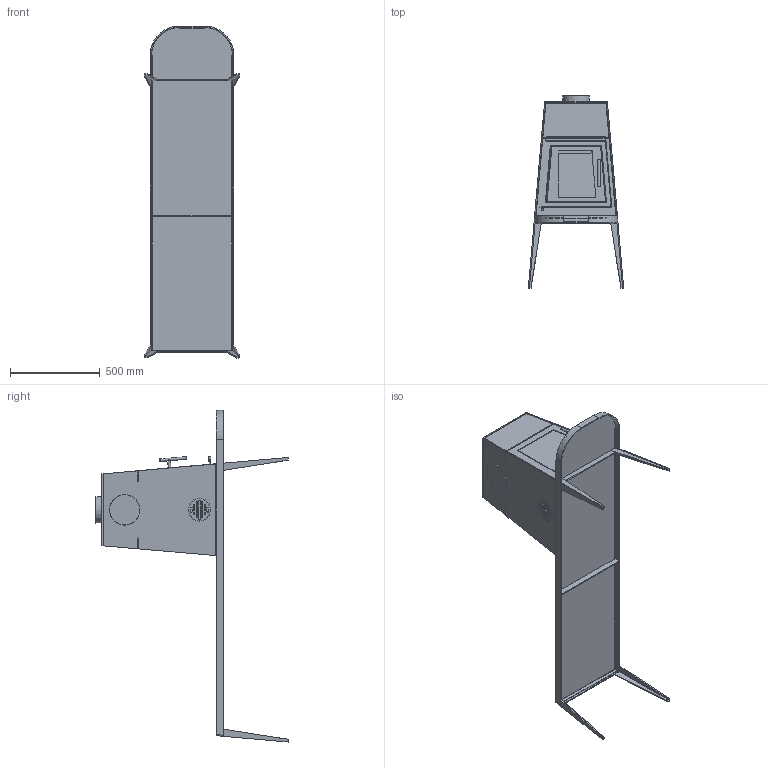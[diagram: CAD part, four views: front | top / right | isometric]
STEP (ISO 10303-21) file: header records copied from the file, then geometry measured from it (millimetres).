
FILE_DESCRIPTION(/* description */ ('Unknown'),/* implementation_level */ '2;1');
FILE_NAME(/* name */ 'shaker_lange Bank',/* time_stamp */ '2017-07-12T12:11:13+02:00',/* author */ ('Unknown'),/* organization */ ('Unknown'),/* preprocessor_version */ 'ST-DEVELOPER v16.7',/* originating_system */ 'DEX',/* authorisation */ $);
FILE_SCHEMA (('AUTOMOTIVE_DESIGN {1 0 10303 214 3 1 1}'));
Length unit declared in the file: millimetre
Products named in the file (38): shaker_lange Bank; Shake_STH_VK_0111; Shake_STH_TR_0201; Shake_STH_TR_0202; Shake_STH_TR_0203; Bank lang; Platte lang; Stirnleiste 1; Stirnleiste 2; Bogenleiste; Seitenleiste lang; Fuß 1; Fuß 2; Fuß 7; Stabilisierungsleiste kurz; Stabilisierungsleiste lang; Shake_STH_VK_0108; Shake_STH_LS_0107; Shake_STH_LS_0106; Shake_STH_VK_0110; Shake_STH_TR_0103; Shake_STH_TR_0106; Shake_STH_TR_0105; Shake_STH_TR_0104; Shake_STH_VK_0101; 01-Gußstutzen; Shake_STH_VK_0104; Brennraumauskleidung; Shake_STH_VK_0109; Shake_STH_KP_0309; Brennraumauskleidung T黵; Shake_STH_VK_0105; Shake_STH_KP_0312; Shake_STH_KP_0305; Shake_STH_VK_0112; Shake_STH_KP_0310; Shake_STH_KP_0306; Shake_STH_KP_0311
Assembly tree (47 placements, depth 3):
  shaker_lange Bank
    Shake_STH_VK_0111
    Shake_STH_TR_0201
    Shake_STH_TR_0202
    Shake_STH_TR_0203
    Bank lang
      Platte lang
      Stirnleiste 1
      Stirnleiste 2
      Bogenleiste  x2
      Seitenleiste lang  x2
      Fuß 1  x4
      Fuß 2  x2
      Fuß 7  x2
      Stabilisierungsleiste kurz
      Stabilisierungsleiste lang
    Shake_STH_VK_0108
    Shake_STH_LS_0107
    Shake_STH_LS_0106
    Shake_STH_VK_0110  x2
    Shake_STH_TR_0103
    Shake_STH_TR_0106
    Shake_STH_TR_0105
    Shake_STH_TR_0104
    Shake_STH_VK_0101
    01-Gußstutzen
    Shake_STH_VK_0104
    Brennraumauskleidung
    Shake_STH_VK_0109
    Shake_STH_KP_0309
    Brennraumauskleidung T黵
    Shake_STH_VK_0105
    Shake_STH_KP_0312
    Shake_STH_KP_0305  x2
    Shake_STH_VK_0112
    Shake_STH_KP_0310
    Shake_STH_KP_0306  x2
    Shake_STH_KP_0311
Bounding box: 529.72 x 1069.64 x 1844.82 mm (x, y, z)
Volume: 27013301.4 mm3; surface area: 6479324.5 mm2
Topology: 46 solids, 46 shells, 521 faces, 1198 edges, 772 vertices
Faces by surface type: plane 363, cylinder 113, cone 21, sphere 12, torus 10, bspline 2
Full cylindrical faces by diameter (mm): 4.917 x2, 6 x3, 10 x1, 12 x3, 12.2 x1, 15 x2, 20 x1, 160 x1, 172 x1
Entity records: 14208 total; most frequent: CARTESIAN_POINT 2604, DIRECTION 2287, ORIENTED_EDGE 2062, EDGE_CURVE 1031, AXIS2_PLACEMENT_3D 773, LINE 741, VECTOR 741, VERTEX_POINT 680
